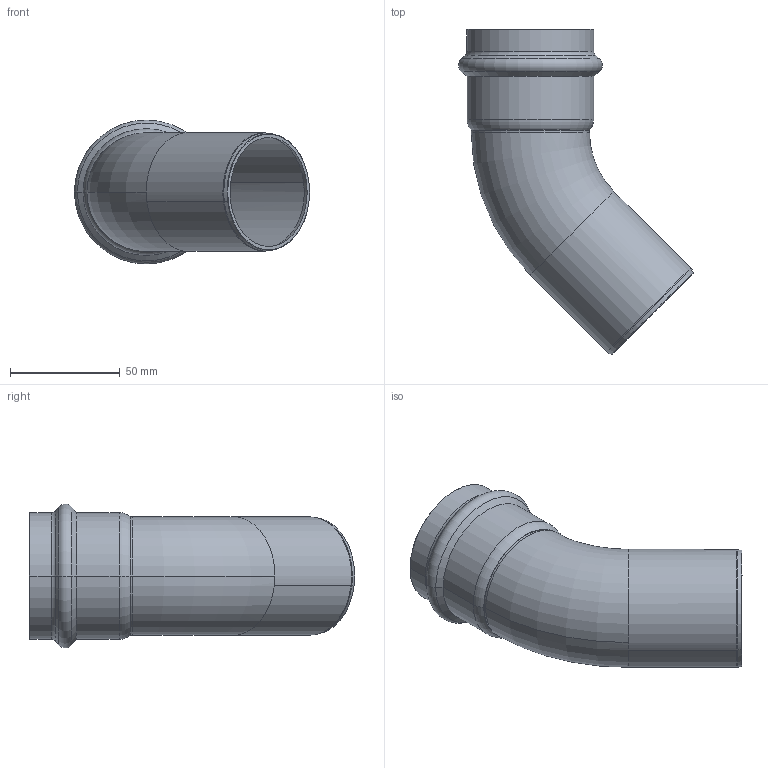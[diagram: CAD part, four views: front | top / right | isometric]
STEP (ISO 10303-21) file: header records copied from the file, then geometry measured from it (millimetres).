
FILE_DESCRIPTION(('CoCreate Modeling STEP Export'),'2;1');
FILE_NAME('8040VW54.stp','2013-01-29T14:45:32',(''),(''),'CoCreate Modeling STEP processor for AP214 (Solid Model)','CoCreate Modeling 17.00A 17-Jun-2010 (C) Parametric Technology GmbH','');
FILE_SCHEMA(('AUTOMOTIVE_DESIGN { 1 0 10303 214 1 1 1 1 }'));
Length unit declared in the file: millimetre
Products named in the file (1): 8040VW54
Bounding box: 107.34 x 148.49 x 65.68 mm (x, y, z)
Volume: 48292.6 mm3; surface area: 52359.2 mm2
Topology: 1 solids, 1 shells, 60 faces, 135 edges, 79 vertices
Faces by surface type: cone 20, cylinder 18, torus 18, plane 4
Entity records: 1353 total; most frequent: ORIENTED_EDGE 270, DIRECTION 208, CARTESIAN_POINT 202, EDGE_CURVE 135, AXIS2_PLACEMENT_3D 85, VERTEX_POINT 79, EDGE_LOOP 64, FACE_OUTER_BOUND 60
